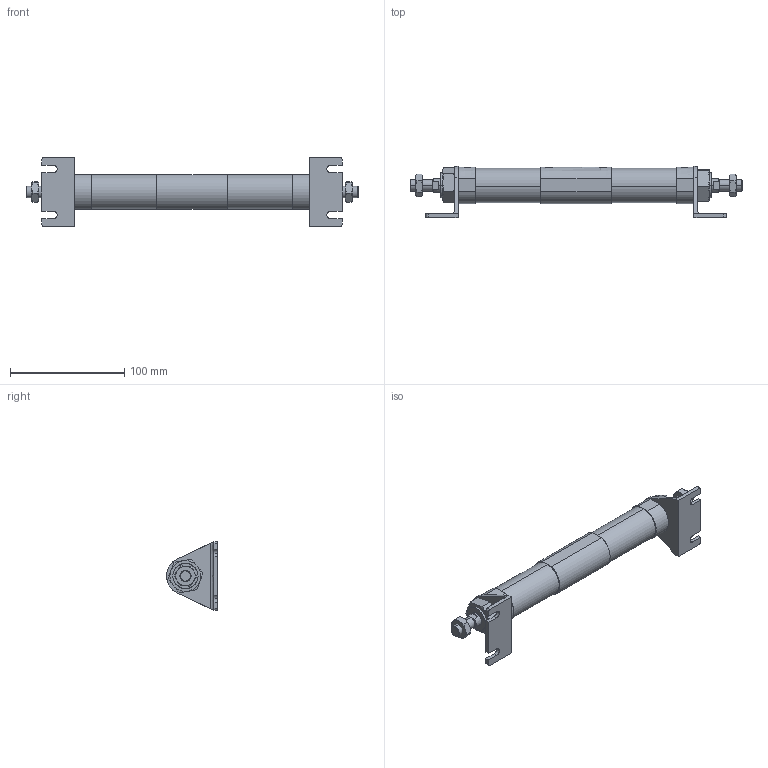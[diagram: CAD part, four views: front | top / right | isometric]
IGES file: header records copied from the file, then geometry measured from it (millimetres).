
Start section: SolidWorks IGES file using analytic representation for surfaces
Global section: file name: C:\Users\Toshiba\Desktop\JGD7-25-25-25-L.IGS; native system: SolidWorks 2014; preprocessor: SolidWorks 2014; author: Toshiba; date: 160419.152240; units: millimetre
Bounding box: 290 x 44.5 x 60 mm (x, y, z)
Surface area: 52622.6 mm2 (no closed solid volume)
Topology: 0 solids, 0 shells, 224 faces, 3756 edges, 3748 vertices
Faces by surface type: bspline 144, revolution 80
